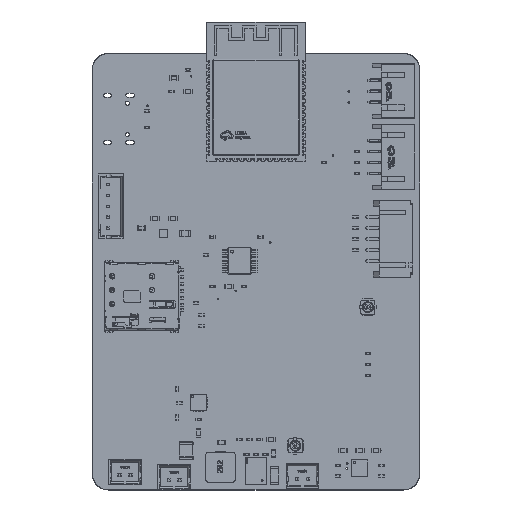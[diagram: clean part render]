
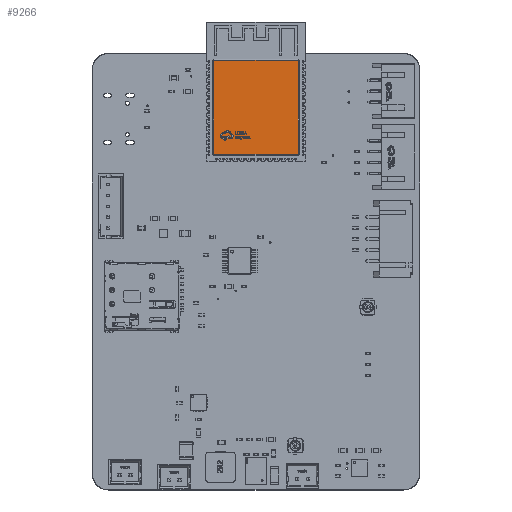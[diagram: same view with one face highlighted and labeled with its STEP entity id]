
A CAD part, top view. The second image highlights one B-rep face of the part: STEP entity #9266.
In plain terms, the highlighted planar face has unit normal (0, 0, 1).
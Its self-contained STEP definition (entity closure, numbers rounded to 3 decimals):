
#9266 = ADVANCED_FACE('',(#9267),#9301,.F.);
#9267 = FACE_BOUND('',#9268,.T.);
#9268 = EDGE_LOOP('',(#9269,#9279,#9287,#9295));
#9269 = ORIENTED_EDGE('',*,*,#9270,.T.);
#9270 = EDGE_CURVE('',#9271,#9273,#9275,.T.);
#9271 = VERTEX_POINT('',#9272);
#9272 = CARTESIAN_POINT('',(-7.7,5.7,3.1));
#9273 = VERTEX_POINT('',#9274);
#9274 = CARTESIAN_POINT('',(-7.7,-11.5,3.1));
#9275 = LINE('',#9276,#9277);
#9276 = CARTESIAN_POINT('',(-7.7,0.,3.1));
#9277 = VECTOR('',#9278,1.);
#9278 = DIRECTION('',(0.,-1.,0.));
#9279 = ORIENTED_EDGE('',*,*,#9280,.T.);
#9280 = EDGE_CURVE('',#9273,#9281,#9283,.T.);
#9281 = VERTEX_POINT('',#9282);
#9282 = CARTESIAN_POINT('',(7.7,-11.5,3.1));
#9283 = LINE('',#9284,#9285);
#9284 = CARTESIAN_POINT('',(0.,-11.5,3.1));
#9285 = VECTOR('',#9286,1.);
#9286 = DIRECTION('',(1.,-0.,0.));
#9287 = ORIENTED_EDGE('',*,*,#9288,.T.);
#9288 = EDGE_CURVE('',#9281,#9289,#9291,.T.);
#9289 = VERTEX_POINT('',#9290);
#9290 = CARTESIAN_POINT('',(7.7,5.7,3.1));
#9291 = LINE('',#9292,#9293);
#9292 = CARTESIAN_POINT('',(7.7,0.,3.1));
#9293 = VECTOR('',#9294,1.);
#9294 = DIRECTION('',(0.,1.,0.));
#9295 = ORIENTED_EDGE('',*,*,#9296,.T.);
#9296 = EDGE_CURVE('',#9289,#9271,#9297,.T.);
#9297 = LINE('',#9298,#9299);
#9298 = CARTESIAN_POINT('',(0.,5.7,3.1));
#9299 = VECTOR('',#9300,1.);
#9300 = DIRECTION('',(-1.,0.,0.));
#9301 = PLANE('',#9302);
#9302 = AXIS2_PLACEMENT_3D('',#9303,#9304,#9305);
#9303 = CARTESIAN_POINT('',(0.,0.,3.1));
#9304 = DIRECTION('',(0.,0.,-1.));
#9305 = DIRECTION('',(-1.,0.,-0.));
